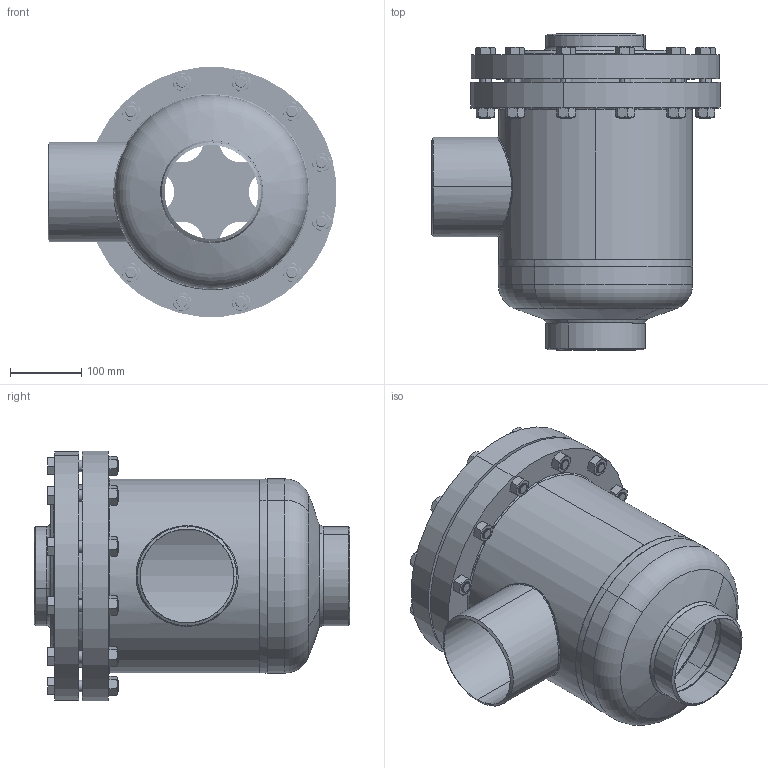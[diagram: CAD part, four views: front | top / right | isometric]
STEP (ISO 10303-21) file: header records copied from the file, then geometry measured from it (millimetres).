
FILE_DESCRIPTION (( 'STEP AP214' ), '1' );
FILE_NAME ('TR47000B20-DN125_R1_PS25.STEP', '2005-08-10T05:22:03', ( 'Herr Grams' ), ( 'AWP GmbH' ), 'SwSTEP 2.0', 'SolidWorks 2002296', '' );
FILE_SCHEMA (( 'AUTOMOTIVE_DESIGN' ));
Length unit declared in the file: millimetre
Products named in the file (18): TR47000B20-DN125_R1_PS25; loser Flansch47000B20_DN125_PS25_Standard; Geh-kpl47000B20-DN125_PS25_R1_Standard; Kopfring47000B20_DN125_PS25_Standard; RohrstutzA47000B20-DN125_PS40_R1_Standard; Boden47000B_DN125-150_PS25_DN125; Geh47000B20_DN125_PS25_R1_Standard; RohrstutzE00000-DN125-150_PS40_R1_DN 125; bead20-5_Standard; bead20-1_Standard; bead20-4_Standard; Kehlnaht20-3_Standard; Kehlnaht20-2_Standard; Führungsring47000E20-DN125_Standard; Andruckplatte47000E20-DN125_Standard; Deckel47000B20_DN125_PS25_R1_Standard; Sechskantschraube-DIN933-M16x90_M16x 90; Sechskantmutter-DIN934_M16
Assembly tree (39 placements, depth 3):
  TR47000B20-DN125_R1_PS25
    Andruckplatte47000E20-DN125_Standard
    Sechskantmutter-DIN934_M16  x12
    Sechskantschraube-DIN933-M16x90_M16x 90  x12
    loser Flansch47000B20_DN125_PS25_Standard
    Führungsring47000E20-DN125_Standard
    Geh-kpl47000B20-DN125_PS25_R1_Standard
      Boden47000B_DN125-150_PS25_DN125
      Geh47000B20_DN125_PS25_R1_Standard
      Kehlnaht20-2_Standard
      RohrstutzA47000B20-DN125_PS40_R1_Standard
      bead20-4_Standard
      RohrstutzE00000-DN125-150_PS40_R1_DN 125
      bead20-1_Standard
      Kehlnaht20-3_Standard
      bead20-5_Standard
      Kopfring47000B20_DN125_PS25_Standard
    Deckel47000B20_DN125_PS25_R1_Standard
Bounding box: 405.33 x 444 x 350.66 mm (x, y, z)
Volume: 8504562 mm3; surface area: 1639023.3 mm2
Topology: 38 solids, 38 shells, 1315 faces, 3308 edges, 2096 vertices
Faces by surface type: cylinder 622, cone 380, plane 257, bspline 36, torus 12, sphere 8
Entity records: 33375 total; most frequent: CARTESIAN_POINT 24242, DIRECTION 1802, ORIENTED_EDGE 1666, EDGE_CURVE 833, AXIS2_PLACEMENT_3D 780, VERTEX_POINT 534, EDGE_LOOP 463, CIRCLE 404
